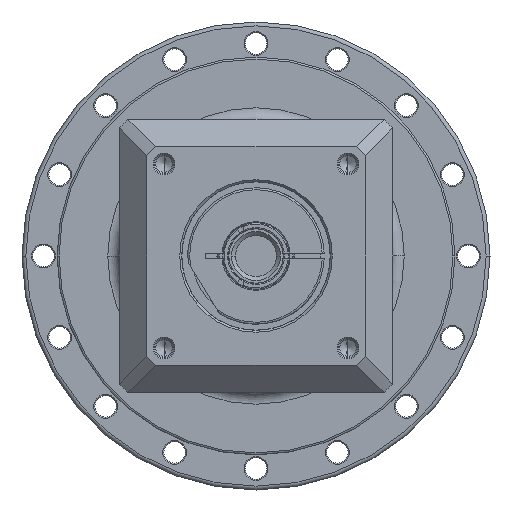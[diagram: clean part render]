
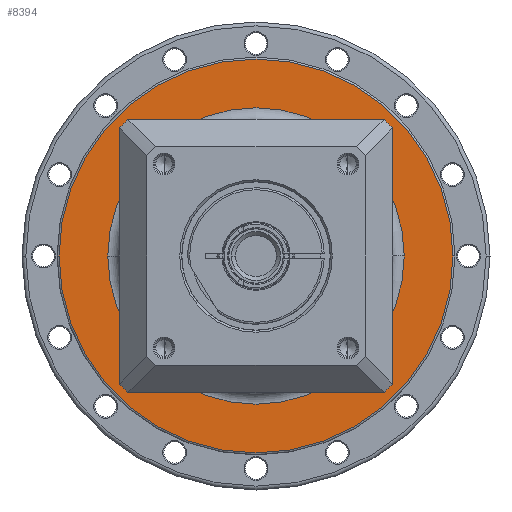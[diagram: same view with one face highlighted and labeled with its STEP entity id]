
A CAD part, left-side view. The second image highlights one B-rep face of the part: STEP entity #8394.
In plain terms, the highlighted planar face has unit normal (-1, 0, 0) as drawn and (1, 0, 0) by its records, which use the part's own axes.
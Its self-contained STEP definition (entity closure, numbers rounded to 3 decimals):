
#7873=CARTESIAN_POINT('',(-11.5,0.,0.));
#7874=DIRECTION('',(-1.,0.,0.));
#7875=DIRECTION('',(0.,-1.,0.));
#7876=AXIS2_PLACEMENT_3D('',#7873,#7874,#7875);
#7878=CARTESIAN_POINT('',(-11.5,0.,0.));
#7879=DIRECTION('',(-1.,0.,0.));
#7880=DIRECTION('',(0.,1.,0.));
#7881=AXIS2_PLACEMENT_3D('',#7878,#7879,#7880);
#7883=CARTESIAN_POINT('',(-11.5,0.,0.));
#7884=DIRECTION('',(-1.,0.,0.));
#7885=DIRECTION('',(0.,-1.,0.));
#7886=AXIS2_PLACEMENT_3D('',#7883,#7884,#7885);
#7888=CARTESIAN_POINT('',(-11.5,0.,0.));
#7889=DIRECTION('',(-1.,0.,0.));
#7890=DIRECTION('',(0.,1.,0.));
#7891=AXIS2_PLACEMENT_3D('',#7888,#7889,#7890);
#7957=CARTESIAN_POINT('',(-11.5,-50.5,0.));
#7958=CARTESIAN_POINT('',(-11.5,50.5,0.));
#7959=VERTEX_POINT('',#7957);
#7960=VERTEX_POINT('',#7958);
#7981=CARTESIAN_POINT('',(-11.5,-38.,0.));
#7982=CARTESIAN_POINT('',(-11.5,38.,0.));
#7983=VERTEX_POINT('',#7981);
#7984=VERTEX_POINT('',#7982);
#8379=CARTESIAN_POINT('',(-11.5,0.,0.));
#8380=DIRECTION('',(1.,0.,0.));
#8381=DIRECTION('',(0.,-1.,0.));
#8382=AXIS2_PLACEMENT_3D('',#8379,#8380,#8381);
#8383=PLANE('',#8382);
#8384=ORIENTED_EDGE('',*,*,#8320,.T.);
#8385=ORIENTED_EDGE('',*,*,#8335,.T.);
#8386=EDGE_LOOP('',(#8384,#8385));
#8387=FACE_OUTER_BOUND('',#8386,.F.);
#8389=ORIENTED_EDGE('',*,*,#8388,.F.);
#8391=ORIENTED_EDGE('',*,*,#8390,.F.);
#8392=EDGE_LOOP('',(#8389,#8391));
#8393=FACE_BOUND('',#8392,.F.);
#8394=ADVANCED_FACE('',(#8387,#8393),#8383,.T.);
#7877=CIRCLE('',#7876,38.);
#7882=CIRCLE('',#7881,38.);
#7887=CIRCLE('',#7886,50.5);
#7892=CIRCLE('',#7891,50.5);
#8320=EDGE_CURVE('',#7959,#7960,#7887,.T.);
#8335=EDGE_CURVE('',#7960,#7959,#7892,.T.);
#8388=EDGE_CURVE('',#7983,#7984,#7877,.T.);
#8390=EDGE_CURVE('',#7984,#7983,#7882,.T.);
